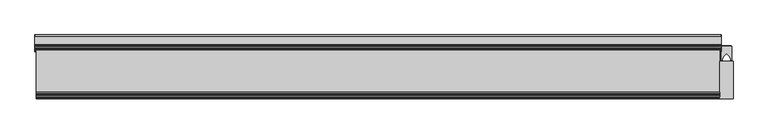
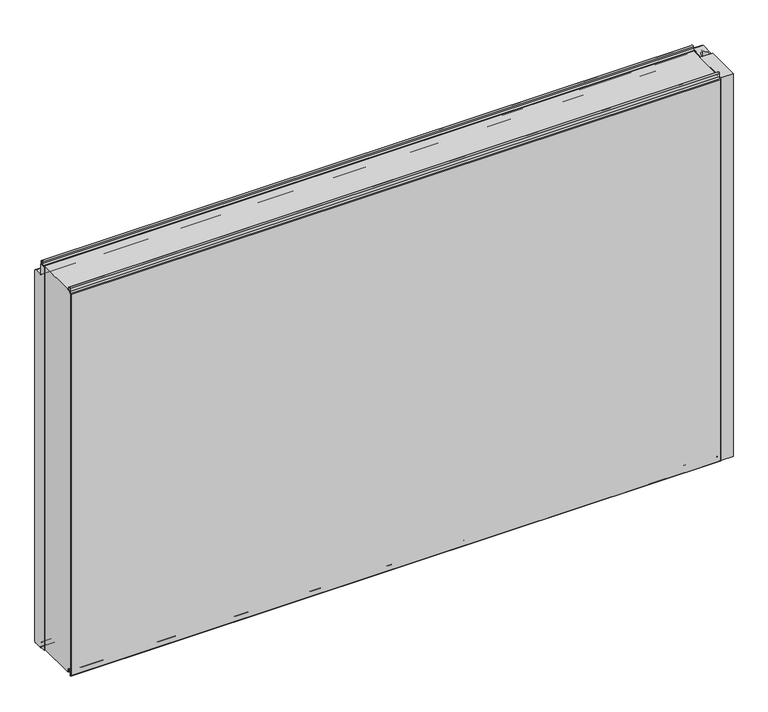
"""IFC4 building model written with IfcOpenShell, lengths in millimetres: plate geometry, Fronttop : Fronttop 150/1000."""

from ifc_helpers import new_model, si_unit, point, frame, frame_2d, origin, origin_with_axes, place, context, project, spatial, polyline, circle_curve, trimmed, segment, composite_curve, outline, extrude, source, transform, mapped, element, save
from ifc_brep_helpers import plane_surface, cylinder_surface, revolved_surface, advanced_brep


def plate_3d081e60(model_context):
    return source(origin(), model_context, "Body", "SolidModel", [
        advanced_brep(
        [(-804.0, 124.0, 1008.0), (-804.0, 121.0, 1008.0), (-804.0, 121.0, 1004.0), (-804.0, 117.0, 1000.0), (-804.0, 115.0, 1000.0), (-804.0, 115.0, 1001.0), (-804.0, 117.0, 1001.0), (-804.0, 120.0, 1004.0), (-804.0, 120.0, 1008.0), (-804.0, 125.0, 1008.0), (-804.0, 125.0, 1000.0), (-804.0, 124.0, 1000.0), (804.0, 125.0, 1008.0), (804.0, 120.0, 1008.0), (804.0, 120.0, 1004.0), (804.0, 117.0, 1001.0), (804.0, 115.0, 1001.0), (804.0, 115.0, 1000.0), (804.0, 117.0, 1000.0), (804.0, 121.0, 1004.0), (804.0, 121.0, 1008.0), (804.0, 124.0, 1008.0), (804.0, 124.0, 1000.0), (804.0, 125.0, 1000.0), (-804.0, 117.0, 2.0), (804.0, 117.0, 2.0), (804.0, 115.0, 2.0), (-804.0, 115.0, 2.0), (-804.0, 119.0, 4.0), (804.0, 119.0, 4.0), (-804.0, 119.0, 8.0), (804.0, 119.0, 8.0), (-804.0, 126.0, 8.0), (804.0, 126.0, 8.0), (-804.0, 126.0, 0.0), (804.0, 126.0, 0.0), (-804.0, 129.0, -3.0), (804.0, 129.0, -3.0), (-804.0, 125.0, -3.0), (-805.0, 125.0, -3.0), (-805.0, 147.0, -3.0), (-804.0, 147.0, -3.0), (804.0, 147.0, -3.0), (805.0, 147.0, -3.0), (805.0, 125.0, -3.0), (804.0, 125.0, -3.0), (-804.0, 150.0, 0.0), (804.0, 150.0, 0.0), (-805.0, 150.0, 0.0), (-805.0, 150.0, 969.0), (-804.0, 150.0, 969.0), (804.0, 150.0, 969.0), (805.0, 150.0, 969.0), (805.0, 150.0, 0.0), (-804.0, 147.0, 972.0), (804.0, 147.0, 972.0), (-805.0, 147.0, 972.0), (-805.0, 128.0, 972.0), (-804.0, 128.0, 972.0), (804.0, 128.0, 972.0), (805.0, 128.0, 972.0), (805.0, 147.0, 972.0), (-804.0, 125.0, 975.0), (804.0, 125.0, 975.0), (-805.0, 125.0, 975.0), (-805.0, 125.0, 1000.0), (805.0, 125.0, 1000.0), (805.0, 125.0, 975.0), (-804.0, 124.0, 975.0), (804.0, 124.0, 975.0), (-804.0, 128.0, 971.0), (804.0, 128.0, 971.0), (-804.0, 147.0, 971.0), (804.0, 147.0, 971.0), (-804.0, 149.0, 969.0), (804.0, 149.0, 969.0), (-804.0, 149.0, 0.0), (804.0, 149.0, 0.0), (-804.0, 147.0, -2.0), (804.0, 147.0, -2.0), (-804.0, 129.0, -2.0), (804.0, 129.0, -2.0), (-804.0, 127.0, 0.0), (804.0, 127.0, 0.0), (-804.0, 127.0, 8.0), (804.0, 127.0, 8.0), (-804.0, 118.0, 8.0), (804.0, 118.0, 8.0), (-804.0, 118.0, 4.0), (804.0, 118.0, 4.0), (-804.0, 117.0, 3.0), (804.0, 117.0, 3.0), (-804.0, 115.0, 3.0), (804.0, 115.0, 3.0), (805.0, 110.0, 1000.0), (805.0, 110.0, 0.0), (805.0, 125.0, 0.0), (804.0, 125.0, 0.0), (804.0, 110.0, 0.0), (804.0, 110.0, 1000.0), (-805.0, 125.0, 0.0), (-805.0, 110.0, 0.0), (-805.0, 110.0, 1000.0), (-804.0, 110.0, 1000.0), (-804.0, 110.0, 0.0), (-804.0, 125.0, 0.0)],
        [
            (0, 1, circle_curve(frame((-804.0, 122.5, 1008.0), z_axis=(1.0, 0.0, 0.0), x_axis=(0.0, -1.0, 0.0)), 1.5)),
            (1, 2),
            (2, 3, circle_curve(frame((-804.0, 117.0, 1004.0), z_axis=(-1.0, 0.0, 0.0), x_axis=(0.0, -1.0, 0.0)), 4.0)),
            (3, 4),
            (4, 5),
            (5, 6),
            (6, 7, circle_curve(frame((-804.0, 117.0, 1004.0), z_axis=(1.0, 0.0, 0.0), x_axis=(0.0, -1.0, 0.0)), 3.0)),
            (7, 8),
            (8, 9, circle_curve(frame((-804.0, 122.5, 1008.0), z_axis=(-1.0, 0.0, 0.0), x_axis=(0.0, -1.0, 0.0)), 2.5)),
            (9, 10),
            (10, 11),
            (11, 0),
            (12, 13, circle_curve(frame((804.0, 122.5, 1008.0), z_axis=(1.0, 0.0, 0.0), x_axis=(0.0, -1.0, 0.0)), 2.5)),
            (13, 14),
            (14, 15, circle_curve(frame((804.0, 117.0, 1004.0), z_axis=(-1.0, 0.0, 0.0), x_axis=(0.0, -1.0, 0.0)), 3.0)),
            (15, 16),
            (16, 17),
            (17, 18),
            (18, 19, circle_curve(frame((804.0, 117.0, 1004.0), z_axis=(1.0, 0.0, 0.0), x_axis=(0.0, -1.0, 0.0)), 4.0)),
            (19, 20),
            (20, 21, circle_curve(frame((804.0, 122.5, 1008.0), z_axis=(-1.0, 0.0, 0.0), x_axis=(0.0, -1.0, 0.0)), 1.5)),
            (21, 22),
            (22, 23),
            (23, 12),
            (24, 25),
            (25, 26),
            (26, 27),
            (27, 24),
            (24, 28, circle_curve(frame((-804.0, 117.0, 4.0), z_axis=(1.0, 0.0, 0.0), x_axis=(0.0, -1.0, 0.0)), 2.0)),
            (28, 29),
            (29, 25, circle_curve(frame((804.0, 117.0, 4.0), z_axis=(-1.0, 0.0, 0.0), x_axis=(0.0, -1.0, 0.0)), 2.0)),
            (28, 30),
            (30, 31),
            (31, 29),
            (30, 32, circle_curve(frame((-804.0, 122.5, 8.0), z_axis=(-1.0, 0.0, 0.0), x_axis=(0.0, -1.0, 0.0)), 3.5)),
            (32, 33),
            (33, 31, circle_curve(frame((804.0, 122.5, 8.0), z_axis=(1.0, 0.0, 0.0), x_axis=(0.0, -1.0, 0.0)), 3.5)),
            (32, 34),
            (34, 35),
            (35, 33),
            (34, 36, circle_curve(frame((-804.0, 129.0, 0.0), z_axis=(1.0, 0.0, 0.0), x_axis=(0.0, -1.0, 0.0)), 3.0)),
            (36, 37),
            (37, 35, circle_curve(frame((804.0, 129.0, 0.0), z_axis=(-1.0, 0.0, 0.0), x_axis=(0.0, -1.0, 0.0)), 3.0)),
            (36, 38),
            (38, 39),
            (39, 40),
            (40, 41),
            (41, 42),
            (42, 43),
            (43, 44),
            (44, 45),
            (45, 37),
            (41, 46, circle_curve(frame((-804.0, 147.0, 0.0), z_axis=(1.0, 0.0, 0.0), x_axis=(0.0, -1.0, 0.0)), 3.0)),
            (46, 47),
            (47, 42, circle_curve(frame((804.0, 147.0, 0.0), z_axis=(-1.0, 0.0, 0.0), x_axis=(0.0, -1.0, 0.0)), 3.0)),
            (46, 48),
            (48, 49),
            (49, 50),
            (50, 51),
            (51, 52),
            (52, 53),
            (53, 47),
            (50, 54, circle_curve(frame((-804.0, 147.0, 969.0), z_axis=(1.0, 0.0, 0.0), x_axis=(0.0, -1.0, 0.0)), 3.0)),
            (54, 55),
            (55, 51, circle_curve(frame((804.0, 147.0, 969.0), z_axis=(-1.0, 0.0, 0.0), x_axis=(0.0, -1.0, 0.0)), 3.0)),
            (54, 56),
            (56, 57),
            (57, 58),
            (58, 59),
            (59, 60),
            (60, 61),
            (61, 55),
            (58, 62, circle_curve(frame((-804.0, 128.0, 975.0), z_axis=(-1.0, 0.0, 0.0), x_axis=(0.0, -1.0, 0.0)), 3.0)),
            (62, 63),
            (63, 59, circle_curve(frame((804.0, 128.0, 975.0), z_axis=(1.0, 0.0, 0.0), x_axis=(0.0, -1.0, 0.0)), 3.0)),
            (62, 64),
            (64, 65),
            (65, 10),
            (9, 12),
            (23, 66),
            (66, 67),
            (67, 63),
            (8, 13),
            (7, 14),
            (6, 15),
            (5, 16),
            (4, 17),
            (4, 3),
            (3, 18),
            (18, 17),
            (2, 19),
            (1, 20),
            (0, 21),
            (11, 68),
            (68, 69),
            (69, 22),
            (68, 70, circle_curve(frame((-804.0, 128.0, 975.0), z_axis=(1.0, 0.0, 0.0), x_axis=(0.0, -1.0, 0.0)), 4.0)),
            (70, 71),
            (71, 69, circle_curve(frame((804.0, 128.0, 975.0), z_axis=(-1.0, 0.0, 0.0), x_axis=(0.0, -1.0, 0.0)), 4.0)),
            (70, 72),
            (72, 73),
            (73, 71),
            (72, 74, circle_curve(frame((-804.0, 147.0, 969.0), z_axis=(-1.0, 0.0, 0.0), x_axis=(0.0, -1.0, 0.0)), 2.0)),
            (74, 75),
            (75, 73, circle_curve(frame((804.0, 147.0, 969.0), z_axis=(1.0, 0.0, 0.0), x_axis=(0.0, -1.0, 0.0)), 2.0)),
            (74, 76),
            (76, 77),
            (77, 75),
            (76, 78, circle_curve(frame((-804.0, 147.0, 0.0), z_axis=(-1.0, 0.0, 0.0), x_axis=(0.0, -1.0, 0.0)), 2.0)),
            (78, 79),
            (79, 77, circle_curve(frame((804.0, 147.0, 0.0), z_axis=(1.0, 0.0, 0.0), x_axis=(0.0, -1.0, 0.0)), 2.0)),
            (78, 80),
            (80, 81),
            (81, 79),
            (80, 82, circle_curve(frame((-804.0, 129.0, 0.0), z_axis=(-1.0, 0.0, 0.0), x_axis=(0.0, -1.0, 0.0)), 2.0)),
            (82, 83),
            (83, 81, circle_curve(frame((804.0, 129.0, 0.0), z_axis=(1.0, 0.0, 0.0), x_axis=(0.0, -1.0, 0.0)), 2.0)),
            (82, 84),
            (84, 85),
            (85, 83),
            (84, 86, circle_curve(frame((-804.0, 122.5, 8.0), z_axis=(1.0, 0.0, 0.0), x_axis=(0.0, -1.0, 0.0)), 4.5)),
            (86, 87),
            (87, 85, circle_curve(frame((804.0, 122.5, 8.0), z_axis=(-1.0, 0.0, 0.0), x_axis=(0.0, -1.0, 0.0)), 4.5)),
            (86, 88),
            (88, 89),
            (89, 87),
            (88, 90, circle_curve(frame((-804.0, 117.0, 4.0), z_axis=(-1.0, 0.0, 0.0), x_axis=(0.0, -1.0, 0.0)), 1.0)),
            (90, 91),
            (91, 89, circle_curve(frame((804.0, 117.0, 4.0), z_axis=(1.0, 0.0, 0.0), x_axis=(0.0, -1.0, 0.0)), 1.0)),
            (90, 92),
            (92, 93),
            (93, 91),
            (26, 93),
            (92, 27),
            (66, 94),
            (94, 95),
            (95, 96),
            (96, 44),
            (43, 53, circle_curve(frame((805.0, 147.0, 0.0), z_axis=(1.0, 0.0, 0.0), x_axis=(0.0, 1.0, 0.0)), 3.0)),
            (52, 61, circle_curve(frame((805.0, 147.0, 969.0), z_axis=(1.0, 0.0, 0.0), x_axis=(0.0, 1.0, 0.0)), 3.0)),
            (60, 67, circle_curve(frame((805.0, 128.0, 975.0), z_axis=(-1.0, 0.0, 0.0), x_axis=(0.0, 1.0, 0.0)), 3.0)),
            (45, 97),
            (97, 98),
            (98, 99),
            (99, 17),
            (18, 22),
            (99, 94),
            (98, 95),
            (97, 96),
            (64, 57, circle_curve(frame((-805.0, 128.0, 975.0), z_axis=(1.0, 0.0, 0.0), x_axis=(0.0, 1.0, 0.0)), 3.0)),
            (56, 49, circle_curve(frame((-805.0, 147.0, 969.0), z_axis=(-1.0, 0.0, 0.0), x_axis=(0.0, 1.0, 0.0)), 3.0)),
            (48, 40, circle_curve(frame((-805.0, 147.0, 0.0), z_axis=(-1.0, 0.0, 0.0), x_axis=(0.0, 1.0, 0.0)), 3.0)),
            (39, 100),
            (100, 101),
            (101, 102),
            (102, 65),
            (103, 104),
            (104, 105),
            (105, 38),
            (11, 3),
            (4, 103),
            (102, 103),
            (101, 104),
            (100, 105),
        ],
        [
            plane_surface(frame((-804.0, 0.0, 0.0), z_axis=(-1.0, 0.0, 0.0), x_axis=(0.0, 0.0, 1.0))),
            plane_surface(frame((804.0, 0.0, 0.0), z_axis=(1.0, 0.0, 0.0), x_axis=(0.0, 0.0, 1.0))),
            plane_surface(frame((-804.0, 117.0, 2.0), z_axis=(0.0, 0.0, -1.0), x_axis=(1.0, 0.0, 0.0))),
            cylinder_surface(frame((-804.0, 117.0, 4.0), z_axis=(-1.0, 0.0, 0.0), x_axis=(0.0, -1.0, 0.0)), 2.0),
            plane_surface(frame((-804.0, 119.0, 8.0), z_axis=(0.0, 1.0, 0.0), x_axis=(1.0, 0.0, 0.0))),
            revolved_surface(polyline([(804.0, 119.0, 8.0), (-804.0, 119.0, 8.0)]), (-804.0, 122.5, 8.0), (1.0, 0.0, 0.0)),
            plane_surface(frame((-804.0, 126.0, 0.0), z_axis=(0.0, -1.0, 0.0), x_axis=(1.0, 0.0, 0.0))),
            cylinder_surface(frame((-804.0, 129.0, 0.0), z_axis=(-1.0, 0.0, 0.0), x_axis=(0.0, -1.0, 0.0)), 3.0),
            plane_surface(frame((-804.0, 147.0, -3.0), z_axis=(0.0, 0.0, -1.0), x_axis=(1.0, 0.0, 0.0))),
            cylinder_surface(frame((-804.0, 147.0, 0.0), z_axis=(-1.0, 0.0, 0.0), x_axis=(0.0, -1.0, 0.0)), 3.0),
            plane_surface(frame((-804.0, 150.0, 969.0), z_axis=(0.0, 1.0, 0.0), x_axis=(1.0, 0.0, 0.0))),
            cylinder_surface(frame((-804.0, 147.0, 969.0), z_axis=(-1.0, 0.0, 0.0), x_axis=(0.0, -1.0, 0.0)), 3.0),
            plane_surface(frame((-804.0, 128.0, 972.0), z_axis=(0.0, 0.0, 1.0), x_axis=(1.0, 0.0, 0.0))),
            revolved_surface(polyline([(804.0, 125.0, 975.0), (-804.0, 125.0, 975.0)]), (-804.0, 128.0, 975.0), (1.0, 0.0, 0.0)),
            plane_surface(frame((-804.0, 125.0, 1008.0), z_axis=(0.0, 1.0, 0.0), x_axis=(1.0, 0.0, 0.0))),
            cylinder_surface(frame((-804.0, 122.5, 1008.0), z_axis=(-1.0, 0.0, 0.0), x_axis=(0.0, -1.0, 0.0)), 2.5),
            plane_surface(frame((-804.0, 120.0, 1004.0), z_axis=(0.0, -1.0, 0.0), x_axis=(1.0, 0.0, 0.0))),
            revolved_surface(polyline([(804.0, 114.0, 1004.0), (-804.0, 114.0, 1004.0)]), (-804.0, 117.0, 1004.0), (1.0, 0.0, 0.0)),
            plane_surface(frame((-804.0, 115.0, 1001.0), z_axis=(0.0, 0.0, 1.0), x_axis=(1.0, 0.0, 0.0))),
            plane_surface(frame((-804.0, 115.0, 1000.0), z_axis=(0.0, -1.0, 0.0), x_axis=(1.0, 0.0, 0.0))),
            plane_surface(frame((-804.0, 117.0, 1000.0), z_axis=(0.0, 0.0, -1.0), x_axis=(1.0, 0.0, 0.0))),
            cylinder_surface(frame((-804.0, 117.0, 1004.0), z_axis=(-1.0, 0.0, 0.0), x_axis=(0.0, -1.0, 0.0)), 4.0),
            plane_surface(frame((-804.0, 121.0, 1008.0), z_axis=(0.0, 1.0, 0.0), x_axis=(1.0, 0.0, 0.0))),
            revolved_surface(polyline([(804.0, 121.0, 1008.0), (-804.0, 121.0, 1008.0)]), (-804.0, 122.5, 1008.0), (1.0, 0.0, 0.0)),
            plane_surface(frame((-804.0, 124.0, 975.0), z_axis=(0.0, -1.0, 0.0), x_axis=(1.0, 0.0, 0.0))),
            cylinder_surface(frame((-804.0, 128.0, 975.0), z_axis=(-1.0, 0.0, 0.0), x_axis=(0.0, -1.0, 0.0)), 4.0),
            plane_surface(frame((-804.0, 147.0, 971.0), z_axis=(0.0, 0.0, -1.0), x_axis=(1.0, 0.0, 0.0))),
            revolved_surface(polyline([(804.0, 145.0, 969.0), (-804.0, 145.0, 969.0)]), (-804.0, 147.0, 969.0), (1.0, 0.0, 0.0)),
            plane_surface(frame((-804.0, 149.0, 0.0), z_axis=(0.0, -1.0, 0.0), x_axis=(1.0, 0.0, 0.0))),
            revolved_surface(polyline([(804.0, 145.0, 0.0), (-804.0, 145.0, 0.0)]), (-804.0, 147.0, 0.0), (1.0, 0.0, 0.0)),
            plane_surface(frame((-804.0, 129.0, -2.0), z_axis=(0.0, 0.0, 1.0), x_axis=(1.0, 0.0, 0.0))),
            revolved_surface(polyline([(804.0, 127.0, 0.0), (-804.0, 127.0, 0.0)]), (-804.0, 129.0, 0.0), (1.0, 0.0, 0.0)),
            plane_surface(frame((-804.0, 127.0, 8.0), z_axis=(0.0, 1.0, 0.0), x_axis=(1.0, 0.0, 0.0))),
            cylinder_surface(frame((-804.0, 122.5, 8.0), z_axis=(-1.0, 0.0, 0.0), x_axis=(0.0, -1.0, 0.0)), 4.5),
            plane_surface(frame((-804.0, 118.0, 4.0), z_axis=(0.0, -1.0, 0.0), x_axis=(1.0, 0.0, 0.0))),
            revolved_surface(polyline([(804.0, 116.0, 4.0), (-804.0, 116.0, 4.0)]), (-804.0, 117.0, 4.0), (1.0, 0.0, 0.0)),
            plane_surface(frame((-804.0, 115.0, 3.0), z_axis=(0.0, 0.0, 1.0), x_axis=(1.0, 0.0, 0.0))),
            plane_surface(frame((-804.0, 115.0, 2.0), z_axis=(0.0, -1.0, 0.0), x_axis=(1.0, 0.0, 0.0))),
            plane_surface(frame((805.0, 125.0, 1000.0), z_axis=(1.0, 0.0, 0.0), x_axis=(0.0, -1.0, 0.0))),
            plane_surface(frame((804.0, 125.0, 1000.0), z_axis=(-1.0, 0.0, 0.0), x_axis=(0.0, 1.0, 0.0))),
            plane_surface(frame((805.0, 125.0, 1000.0), z_axis=(0.0, 0.0, 1.0), x_axis=(-1.0, 0.0, 0.0))),
            plane_surface(frame((805.0, 110.0, 1000.0), z_axis=(0.0, -1.0, 0.0), x_axis=(-1.0, 0.0, 0.0))),
            plane_surface(frame((805.0, 110.0, 0.0), z_axis=(0.0, 0.0, -1.0), x_axis=(-1.0, 0.0, 0.0))),
            cylinder_surface(frame((804.0, 147.0, 0.0), z_axis=(1.0, 0.0, 0.0), x_axis=(0.0, 1.0, 0.0)), 3.0),
            cylinder_surface(frame((804.0, 147.0, 969.0), z_axis=(1.0, 0.0, 0.0), x_axis=(0.0, 1.0, 0.0)), 3.0),
            revolved_surface(polyline([(804.0, 131.0, 975.0), (805.0, 131.0, 975.0)]), (804.0, 128.0, 975.0), (-1.0, 0.0, 0.0)),
            plane_surface(frame((-805.0, 125.0, 1000.0), z_axis=(-1.0, 0.0, 0.0), x_axis=(0.0, 1.0, 0.0))),
            plane_surface(frame((-804.0, 125.0, 1000.0), z_axis=(1.0, 0.0, 0.0), x_axis=(0.0, -1.0, 0.0))),
            plane_surface(frame((-804.0, 125.0, 1000.0), z_axis=(0.0, 0.0, 1.0), x_axis=(-1.0, 0.0, 0.0))),
            plane_surface(frame((-804.0, 110.0, 1000.0), z_axis=(0.0, -1.0, 0.0), x_axis=(-1.0, 0.0, 0.0))),
            plane_surface(frame((-804.0, 110.0, 0.0), z_axis=(0.0, 0.0, -1.0), x_axis=(-1.0, 0.0, 0.0))),
            cylinder_surface(frame((-805.0, 147.0, 0.0), z_axis=(1.0, 0.0, 0.0), x_axis=(0.0, 1.0, 0.0)), 3.0),
            cylinder_surface(frame((-805.0, 147.0, 969.0), z_axis=(1.0, 0.0, 0.0), x_axis=(0.0, 1.0, 0.0)), 3.0),
            revolved_surface(polyline([(-805.0, 131.0, 975.0), (-804.0, 131.0, 975.0)]), (-805.0, 128.0, 975.0), (-1.0, 0.0, 0.0)),
            plane_surface(frame((805.0, 125.0, 0.0), z_axis=(0.0, -1.0, 0.0), x_axis=(-1.0, 0.0, 0.0))),
            plane_surface(frame((-804.0, 125.0, 0.0), z_axis=(0.0, -1.0, 0.0), x_axis=(-1.0, 0.0, 0.0))),
        ],
        [
            (0, [[1, 2, 3, 4, 5, 6, 7, 8, 9, 10, 11, 12]]),
            (1, [[13, 14, 15, 16, 17, 18, 19, 20, 21, 22, 23, 24]]),
            (2, [[25, 26, 27, 28]]),
            (3, [[-25, 29, 30, 31]]),
            (4, [[-30, 32, 33, 34]]),
            (5, [[-33, 35, 36, 37]]),
            (6, [[-36, 38, 39, 40]]),
            (7, [[-39, 41, 42, 43]]),
            (8, [[-42, 44, 45, 46, 47, 48, 49, 50, 51, 52]]),
            (9, [[-48, 53, 54, 55]]),
            (10, [[-54, 56, 57, 58, 59, 60, 61, 62]]),
            (11, [[-59, 63, 64, 65]]),
            (12, [[-64, 66, 67, 68, 69, 70, 71, 72]]),
            (13, [[-69, 73, 74, 75]]),
            (14, [[-74, 76, 77, 78, -10, 79, -24, 80, 81, 82]]),
            (15, [[-9, 83, -13, -79]]),
            (16, [[-8, 84, -14, -83]]),
            (17, [[-7, 85, -15, -84]]),
            (18, [[-6, 86, -16, -85]]),
            (19, [[-5, 87, -17, -86]]),
            (20, [[-87, 88, 89, 90]]),
            (21, [[-3, 91, -19, -89]]),
            (22, [[-2, 92, -20, -91]]),
            (23, [[-1, 93, -21, -92]]),
            (24, [[-93, -12, 94, 95, 96, -22]]),
            (25, [[-95, 97, 98, 99]]),
            (26, [[-98, 100, 101, 102]]),
            (27, [[-101, 103, 104, 105]]),
            (28, [[-104, 106, 107, 108]]),
            (29, [[-107, 109, 110, 111]]),
            (30, [[-110, 112, 113, 114]]),
            (31, [[-113, 115, 116, 117]]),
            (32, [[-116, 118, 119, 120]]),
            (33, [[-119, 121, 122, 123]]),
            (34, [[-122, 124, 125, 126]]),
            (35, [[-125, 127, 128, 129]]),
            (36, [[-128, 130, 131, 132]]),
            (37, [[-27, 133, -131, 134]]),
            (38, [[135, 136, 137, 138, -50, 139, -61, 140, -71, 141, -81]]),
            (39, [[142, 143, 144, 145, -90, 146, -96, -99, -102, -105, -108, -111, -114, -117, -120, -123, -126, -129, -132, -133, -26, -31, -34, -37, -40, -43, -52]]),
            (40, [[-135, -80, -23, -146, -18, -145, 147]]),
            (41, [[-136, -147, -144, 148]]),
            (42, [[-137, -148, -143, 149]]),
            (43, [[-139, -49, -55, -62]]),
            (44, [[-140, -60, -65, -72]]),
            (45, [[-141, -70, -75, -82]]),
            (46, [[-77, 150, -67, 151, -57, 152, -46, 153, 154, 155, 156]]),
            (47, [[157, 158, 159, -44, -41, -38, -35, -32, -29, -28, -134, -130, -127, -124, -121, -118, -115, -112, -109, -106, -103, -100, -97, -94, 160, -88, 161]]),
            (48, [[-156, 162, -161, -4, -160, -11, -78]]),
            (49, [[-155, 163, -157, -162]]),
            (50, [[-154, 164, -158, -163]]),
            (51, [[-152, -56, -53, -47]]),
            (52, [[-151, -66, -63, -58]]),
            (53, [[-150, -76, -73, -68]]),
            (54, [[-138, -149, -142, -51]]),
            (55, [[-153, -45, -159, -164]]),
        ],
    ),
        extrude(outline(composite_curve([segment(polyline([(804.9998455, 123.5), (816.75, 123.5), (816.75, 107.5), (818.25, 107.5), (818.25, 123.5), (830.0001545, 123.5), (830.0001545, 90.0), (827.25, 90.0), (827.25, 92.5)]), True, "CONTINUOUS"), segment(trimmed(circle_curve(frame_2d((809.4661979, 89.3183984)), 18.0661619), [point((827.25, 92.5))], [point((817.5, 105.5))], True, "CARTESIAN"), True, "CONTINUOUS"), segment(trimmed(circle_curve(frame_2d((825.5338021, 89.3183984)), 18.0661619), [point((817.5, 105.5))], [point((807.75, 92.5))], True, "CARTESIAN"), True, "CONTINUOUS"), segment(polyline([(807.75, 92.5), (807.75, 90.0), (804.9998455, 90.0), (804.9998455, 123.5)]), True, "CONTINUOUS")], self_intersect=False)), origin_with_axes(), (0.0, 0.0, 1.0), 1000.0),
        extrude(outline(polyline([(833.0, 0.0), (802.0, 0.0), (802.0, 88.0), (833.0, 88.0), (833.0, 0.0)])), origin_with_axes(), (0.0, 0.0, 1.0), 1000.0),
        extrude(outline(polyline([(805.9948846, 125.0), (829.0051154, 125.0), (829.0051154, 123.5), (818.1502496, 123.5), (818.1502496, 109.0759655), (816.85, 109.0759655), (816.85, 123.5), (805.9948846, 123.5), (805.9948846, 125.0)])), origin_with_axes(), (0.0, 0.0, 1.0), 1000.0),
        advanced_brep(
        [(-802.0, 13.0, 1001.0), (-802.0, 15.0, 1001.0), (-802.0, 15.0, 1000.0), (-802.0, 13.0, 1000.0), (-802.0, 9.0, 1004.0), (-802.0, 9.0, 1008.0), (-802.0, 6.0, 1008.0), (-802.0, 6.0, 999.5), (-802.0, 2.1134897, 996.0214069), (-802.0, 1.0, 995.0), (-802.0, 1.0, -0.5), (-802.0, 3.0, -0.5), (-802.0, 3.0, 8.0), (-802.0, 12.0, 8.0), (-802.0, 12.0, 4.0), (-802.0, 13.0, 3.0), (-802.0, 15.0, 3.0), (-802.0, 15.0, 2.0), (-802.0, 13.0, 2.0), (-802.0, 11.0, 4.0), (-802.0, 11.0, 8.0), (-802.0, 4.0, 8.0), (-802.0, 4.0, -0.5), (-802.0, 0.0, -0.5), (-802.0, 0.0, 995.0), (-802.0, 2.220863, 996.9877675), (-802.0, 5.0, 999.5), (-802.0, 5.0, 1008.0), (-802.0, 10.0, 1008.0), (-802.0, 10.0, 1004.0), (802.0, 13.0, 1001.0), (802.0, 10.0, 1004.0), (802.0, 10.0, 1008.0), (802.0, 5.0, 1008.0), (802.0, 5.0, 999.5), (802.0, 2.2239212, 997.0152907), (802.0, 0.0, 995.0), (802.0, 0.0, -0.5), (802.0, 4.0, -0.5), (802.0, 4.0, 8.0), (802.0, 11.0, 8.0), (802.0, 11.0, 4.0), (802.0, 13.0, 2.0), (802.0, 15.0, 2.0), (802.0, 15.0, 3.0), (802.0, 13.0, 3.0), (802.0, 12.0, 4.0), (802.0, 12.0, 8.0), (802.0, 3.0, 8.0), (802.0, 3.0, -0.5), (802.0, 1.0, -0.5), (802.0, 1.0, 995.0), (802.0, 2.1104315, 995.9938837), (802.0, 6.0, 999.5), (802.0, 6.0, 1008.0), (802.0, 9.0, 1008.0), (802.0, 9.0, 1004.0), (802.0, 13.0, 1000.0), (802.0, 15.0, 1000.0), (802.0, 15.0, 1001.0)],
        [
            (0, 1),
            (1, 2),
            (2, 3),
            (3, 4, circle_curve(frame((-802.0, 13.0, 1004.0), z_axis=(-1.0, 0.0, 0.0), x_axis=(0.0, -1.0, 0.0)), 4.0)),
            (4, 5),
            (5, 6, circle_curve(frame((-802.0, 7.5, 1008.0), z_axis=(1.0, 0.0, 0.0), x_axis=(0.0, -1.0, 0.0)), 1.5)),
            (6, 7),
            (7, 8, circle_curve(frame((-802.0, 2.5, 999.5), z_axis=(-1.0, 0.0, 0.0), x_axis=(0.0, -1.0, 0.0)), 3.5)),
            (8, 9, circle_curve(frame((-802.0, 2.0, 995.0), z_axis=(1.0, 0.0, 0.0), x_axis=(0.0, -1.0, 0.0)), 1.0)),
            (9, 10),
            (10, 11, circle_curve(frame((-802.0, 2.0, -0.5), z_axis=(1.0, 0.0, 0.0), x_axis=(0.0, -1.0, 0.0)), 1.0)),
            (11, 12),
            (12, 13, circle_curve(frame((-802.0, 7.5, 8.0), z_axis=(-1.0, 0.0, 0.0), x_axis=(0.0, -1.0, 0.0)), 4.5)),
            (13, 14),
            (14, 15, circle_curve(frame((-802.0, 13.0, 4.0), z_axis=(1.0, 0.0, 0.0), x_axis=(0.0, -1.0, 0.0)), 1.0)),
            (15, 16),
            (16, 17),
            (17, 18),
            (18, 19, circle_curve(frame((-802.0, 13.0, 4.0), z_axis=(-1.0, 0.0, 0.0), x_axis=(0.0, -1.0, 0.0)), 2.0)),
            (19, 20),
            (20, 21, circle_curve(frame((-802.0, 7.5, 8.0), z_axis=(1.0, 0.0, 0.0), x_axis=(0.0, -1.0, 0.0)), 3.5)),
            (21, 22),
            (22, 23, circle_curve(frame((-802.0, 2.0, -0.5), z_axis=(-1.0, 0.0, 0.0), x_axis=(0.0, -1.0, 0.0)), 2.0)),
            (23, 24),
            (24, 25, circle_curve(frame((-802.0, 2.0, 995.0), z_axis=(-1.0, 0.0, 0.0), x_axis=(0.0, -1.0, 0.0)), 2.0)),
            (25, 26, circle_curve(frame((-802.0, 2.5, 999.5), z_axis=(1.0, 0.0, 0.0), x_axis=(0.0, -1.0, 0.0)), 2.5)),
            (26, 27),
            (27, 28, circle_curve(frame((-802.0, 7.5, 1008.0), z_axis=(-1.0, 0.0, 0.0), x_axis=(0.0, -1.0, 0.0)), 2.5)),
            (28, 29),
            (29, 0, circle_curve(frame((-802.0, 13.0, 1004.0), z_axis=(1.0, 0.0, 0.0), x_axis=(0.0, -1.0, 0.0)), 3.0)),
            (30, 31, circle_curve(frame((802.0, 13.0, 1004.0), z_axis=(-1.0, 0.0, 0.0), x_axis=(0.0, -1.0, 0.0)), 3.0)),
            (31, 32),
            (32, 33, circle_curve(frame((802.0, 7.5, 1008.0), z_axis=(1.0, 0.0, 0.0), x_axis=(0.0, -1.0, 0.0)), 2.5)),
            (33, 34),
            (34, 35, circle_curve(frame((802.0, 2.5, 999.5), z_axis=(-1.0, 0.0, 0.0), x_axis=(0.0, -1.0, 0.0)), 2.5)),
            (35, 36, circle_curve(frame((802.0, 2.0, 995.0), z_axis=(1.0, 0.0, 0.0), x_axis=(0.0, -1.0, 0.0)), 2.0)),
            (36, 37),
            (37, 38, circle_curve(frame((802.0, 2.0, -0.5), z_axis=(1.0, 0.0, 0.0), x_axis=(0.0, -1.0, 0.0)), 2.0)),
            (38, 39),
            (39, 40, circle_curve(frame((802.0, 7.5, 8.0), z_axis=(-1.0, 0.0, 0.0), x_axis=(0.0, -1.0, 0.0)), 3.5)),
            (40, 41),
            (41, 42, circle_curve(frame((802.0, 13.0, 4.0), z_axis=(1.0, 0.0, 0.0), x_axis=(0.0, -1.0, 0.0)), 2.0)),
            (42, 43),
            (43, 44),
            (44, 45),
            (45, 46, circle_curve(frame((802.0, 13.0, 4.0), z_axis=(-1.0, 0.0, 0.0), x_axis=(0.0, -1.0, 0.0)), 1.0)),
            (46, 47),
            (47, 48, circle_curve(frame((802.0, 7.5, 8.0), z_axis=(1.0, 0.0, 0.0), x_axis=(0.0, -1.0, 0.0)), 4.5)),
            (48, 49),
            (49, 50, circle_curve(frame((802.0, 2.0, -0.5), z_axis=(-1.0, 0.0, 0.0), x_axis=(0.0, -1.0, 0.0)), 1.0)),
            (50, 51),
            (51, 52, circle_curve(frame((802.0, 2.0, 995.0), z_axis=(-1.0, 0.0, 0.0), x_axis=(0.0, -1.0, 0.0)), 1.0)),
            (52, 53, circle_curve(frame((802.0, 2.5, 999.5), z_axis=(1.0, 0.0, 0.0), x_axis=(0.0, -1.0, 0.0)), 3.5)),
            (53, 54),
            (54, 55, circle_curve(frame((802.0, 7.5, 1008.0), z_axis=(-1.0, 0.0, 0.0), x_axis=(0.0, -1.0, 0.0)), 1.5)),
            (55, 56),
            (56, 57, circle_curve(frame((802.0, 13.0, 1004.0), z_axis=(1.0, 0.0, 0.0), x_axis=(0.0, -1.0, 0.0)), 4.0)),
            (57, 58),
            (58, 59),
            (59, 30),
            (0, 30),
            (59, 1),
            (58, 2),
            (57, 3),
            (56, 4),
            (55, 5),
            (54, 6),
            (53, 7),
            (52, 8),
            (51, 9),
            (50, 10),
            (49, 11),
            (48, 12),
            (47, 13),
            (46, 14),
            (45, 15),
            (44, 16),
            (43, 17),
            (42, 18),
            (41, 19),
            (40, 20),
            (39, 21),
            (38, 22),
            (37, 23),
            (36, 24),
            (35, 25),
            (34, 26),
            (33, 27),
            (32, 28),
            (31, 29),
        ],
        [
            plane_surface(frame((-802.0, 0.0, 0.0), z_axis=(-1.0, 0.0, 0.0), x_axis=(0.0, 0.0, 1.0))),
            plane_surface(frame((802.0, 0.0, 0.0), z_axis=(1.0, 0.0, 0.0), x_axis=(0.0, 0.0, 1.0))),
            plane_surface(frame((-802.0, 13.0, 1001.0), z_axis=(0.0, 0.0, 1.0), x_axis=(1.0, 0.0, 0.0))),
            plane_surface(frame((-802.0, 15.0, 1001.0), z_axis=(0.0, 1.0, 0.0), x_axis=(1.0, 0.0, 0.0))),
            plane_surface(frame((-802.0, 15.0, 1000.0), z_axis=(0.0, 0.0, -1.0), x_axis=(1.0, 0.0, 0.0))),
            cylinder_surface(frame((-802.0, 13.0, 1004.0), z_axis=(-1.0, 0.0, 0.0), x_axis=(0.0, -1.0, 0.0)), 4.0),
            plane_surface(frame((-802.0, 9.0, 1004.0), z_axis=(0.0, -1.0, 0.0), x_axis=(1.0, 0.0, 0.0))),
            revolved_surface(polyline([(802.0, 6.0, 1008.0), (-802.0, 6.0, 1008.0)]), (-802.0, 7.5, 1008.0), (1.0, 0.0, 0.0)),
            plane_surface(frame((-802.0, 6.0, 1008.0), z_axis=(0.0, 1.0, 0.0), x_axis=(1.0, 0.0, 0.0))),
            cylinder_surface(frame((-802.0, 2.5, 999.5), z_axis=(-1.0, 0.0, 0.0), x_axis=(0.0, -1.0, 0.0)), 3.5),
            revolved_surface(polyline([(802.0, 1.0, 995.0), (-802.0, 1.0, 995.0)]), (-802.0, 2.0, 995.0), (1.0, 0.0, 0.0)),
            plane_surface(frame((-802.0, 1.0, 995.0), z_axis=(0.0, 1.0, 0.0), x_axis=(1.0, 0.0, 0.0))),
            revolved_surface(polyline([(802.0, 1.0, -0.5), (-802.0, 1.0, -0.5)]), (-802.0, 2.0, -0.5), (1.0, 0.0, 0.0)),
            plane_surface(frame((-802.0, 3.0, -0.5), z_axis=(0.0, -1.0, 0.0), x_axis=(1.0, 0.0, 0.0))),
            cylinder_surface(frame((-802.0, 7.5, 8.0), z_axis=(-1.0, 0.0, 0.0), x_axis=(0.0, -1.0, 0.0)), 4.5),
            plane_surface(frame((-802.0, 12.0, 8.0), z_axis=(0.0, 1.0, 0.0), x_axis=(1.0, 0.0, 0.0))),
            revolved_surface(polyline([(802.0, 12.0, 4.0), (-802.0, 12.0, 4.0)]), (-802.0, 13.0, 4.0), (1.0, 0.0, 0.0)),
            plane_surface(frame((-802.0, 13.0, 3.0), z_axis=(0.0, 0.0, 1.0), x_axis=(1.0, 0.0, 0.0))),
            plane_surface(frame((-802.0, 15.0, 3.0), z_axis=(0.0, 1.0, 0.0), x_axis=(1.0, 0.0, 0.0))),
            plane_surface(frame((-802.0, 15.0, 2.0), z_axis=(0.0, 0.0, -1.0), x_axis=(1.0, 0.0, 0.0))),
            cylinder_surface(frame((-802.0, 13.0, 4.0), z_axis=(-1.0, 0.0, 0.0), x_axis=(0.0, -1.0, 0.0)), 2.0),
            plane_surface(frame((-802.0, 11.0, 4.0), z_axis=(0.0, -1.0, 0.0), x_axis=(1.0, 0.0, 0.0))),
            revolved_surface(polyline([(802.0, 4.0, 8.0), (-802.0, 4.0, 8.0)]), (-802.0, 7.5, 8.0), (1.0, 0.0, 0.0)),
            plane_surface(frame((-802.0, 4.0, 8.0), z_axis=(0.0, 1.0, 0.0), x_axis=(1.0, 0.0, 0.0))),
            cylinder_surface(frame((-802.0, 2.0, -0.5), z_axis=(-1.0, 0.0, 0.0), x_axis=(0.0, -1.0, 0.0)), 2.0),
            plane_surface(frame((-802.0, 0.0, -0.5), z_axis=(0.0, -1.0, 0.0), x_axis=(1.0, 0.0, 0.0))),
            cylinder_surface(frame((-802.0, 2.0, 995.0), z_axis=(-1.0, 0.0, 0.0), x_axis=(0.0, -1.0, 0.0)), 2.0),
            revolved_surface(polyline([(802.0, 0.0, 999.5), (-802.0, 0.0, 999.5)]), (-802.0, 2.5, 999.5), (1.0, 0.0, 0.0)),
            plane_surface(frame((-802.0, 5.0, 999.5), z_axis=(0.0, -1.0, 0.0), x_axis=(1.0, 0.0, 0.0))),
            cylinder_surface(frame((-802.0, 7.5, 1008.0), z_axis=(-1.0, 0.0, 0.0), x_axis=(0.0, -1.0, 0.0)), 2.5),
            plane_surface(frame((-802.0, 10.0, 1008.0), z_axis=(0.0, 1.0, 0.0), x_axis=(1.0, 0.0, 0.0))),
            revolved_surface(polyline([(802.0, 10.0, 1004.0), (-802.0, 10.0, 1004.0)]), (-802.0, 13.0, 1004.0), (1.0, 0.0, 0.0)),
        ],
        [
            (0, [[1, 2, 3, 4, 5, 6, 7, 8, 9, 10, 11, 12, 13, 14, 15, 16, 17, 18, 19, 20, 21, 22, 23, 24, 25, 26, 27, 28, 29, 30]]),
            (1, [[31, 32, 33, 34, 35, 36, 37, 38, 39, 40, 41, 42, 43, 44, 45, 46, 47, 48, 49, 50, 51, 52, 53, 54, 55, 56, 57, 58, 59, 60]]),
            (2, [[-1, 61, -60, 62]]),
            (3, [[-2, -62, -59, 63]]),
            (4, [[-3, -63, -58, 64]]),
            (5, [[-4, -64, -57, 65]]),
            (6, [[-5, -65, -56, 66]]),
            (7, [[-6, -66, -55, 67]]),
            (8, [[-7, -67, -54, 68]]),
            (9, [[-8, -68, -53, 69]]),
            (10, [[-9, -69, -52, 70]]),
            (11, [[-10, -70, -51, 71]]),
            (12, [[-11, -71, -50, 72]]),
            (13, [[-12, -72, -49, 73]]),
            (14, [[-13, -73, -48, 74]]),
            (15, [[-14, -74, -47, 75]]),
            (16, [[-15, -75, -46, 76]]),
            (17, [[-16, -76, -45, 77]]),
            (18, [[-17, -77, -44, 78]]),
            (19, [[-18, -78, -43, 79]]),
            (20, [[-19, -79, -42, 80]]),
            (21, [[-20, -80, -41, 81]]),
            (22, [[-21, -81, -40, 82]]),
            (23, [[-22, -82, -39, 83]]),
            (24, [[-23, -83, -38, 84]]),
            (25, [[-24, -84, -37, 85]]),
            (26, [[-25, -85, -36, 86]]),
            (27, [[-26, -86, -35, 87]]),
            (28, [[-27, -87, -34, 88]]),
            (29, [[-28, -88, -33, 89]]),
            (30, [[-29, -89, -32, 90]]),
            (31, [[-30, -90, -31, -61]]),
        ],
    ),
        extrude(outline(composite_curve([segment(polyline([(15.0, 3.0), (13.0, 3.0)]), True, "CONTINUOUS"), segment(trimmed(circle_curve(frame_2d((13.0, 4.0)), 1.0), [point((13.0, 3.0))], [point((12.0, 4.0))], False, "CARTESIAN"), True, "CONTINUOUS"), segment(polyline([(12.0, 4.0), (12.0, 8.0)]), True, "CONTINUOUS"), segment(trimmed(circle_curve(frame_2d((7.5, 8.0)), 4.5), [point((12.0, 8.0))], [point((3.0, 8.0))], True, "CARTESIAN"), True, "CONTINUOUS"), segment(polyline([(3.0, 8.0), (3.0, -0.5)]), True, "CONTINUOUS"), segment(trimmed(circle_curve(frame_2d((2.0, -0.5)), 1.0), [point((3.0, -0.5))], [point((1.0, -0.5))], False, "CARTESIAN"), True, "CONTINUOUS"), segment(polyline([(1.0, -0.5), (1.0, 995.0278643)]), True, "CONTINUOUS"), segment(trimmed(circle_curve(frame_2d((2.0, 995.0278643)), 1.0), [point((1.0, 995.0278643))], [point((2.1111111, 996.0216723))], False, "CARTESIAN"), True, "CONTINUOUS"), segment(trimmed(circle_curve(frame_2d((2.5, 999.5)), 3.5), [point((2.1111111, 996.0216723))], [point((6.0, 999.5))], True, "CARTESIAN"), True, "CONTINUOUS"), segment(polyline([(6.0, 999.5), (6.0, 1008.0)]), True, "CONTINUOUS"), segment(trimmed(circle_curve(frame_2d((7.5, 1008.0)), 1.5), [point((6.0, 1008.0))], [point((9.0, 1008.0))], False, "CARTESIAN"), True, "CONTINUOUS"), segment(polyline([(9.0, 1008.0), (9.0, 1004.0)]), True, "CONTINUOUS"), segment(trimmed(circle_curve(frame_2d((13.0, 1004.0)), 4.0), [point((9.0, 1004.0))], [point((13.0, 1000.0))], True, "CARTESIAN"), True, "CONTINUOUS"), segment(polyline([(13.0, 1000.0), (117.0, 1000.0)]), True, "CONTINUOUS"), segment(trimmed(circle_curve(frame_2d((117.0, 1004.0)), 4.0), [point((117.0, 1000.0))], [point((121.0, 1004.0))], True, "CARTESIAN"), True, "CONTINUOUS"), segment(polyline([(121.0, 1004.0), (121.0, 1008.0)]), True, "CONTINUOUS"), segment(trimmed(circle_curve(frame_2d((122.5, 1008.0)), 1.5), [point((121.0, 1008.0))], [point((124.0, 1008.0))], False, "CARTESIAN"), True, "CONTINUOUS"), segment(polyline([(124.0, 1008.0), (124.0, 975.0)]), True, "CONTINUOUS"), segment(trimmed(circle_curve(frame_2d((128.0, 975.0)), 4.0), [point((124.0, 975.0))], [point((128.0, 971.0))], True, "CARTESIAN"), True, "CONTINUOUS"), segment(polyline([(128.0, 971.0), (147.0, 971.0)]), True, "CONTINUOUS"), segment(trimmed(circle_curve(frame_2d((147.0, 969.0)), 2.0), [point((147.0, 971.0))], [point((149.0, 969.0))], False, "CARTESIAN"), True, "CONTINUOUS"), segment(polyline([(149.0, 969.0), (149.0, 0.0)]), True, "CONTINUOUS"), segment(trimmed(circle_curve(frame_2d((147.0, 0.0)), 2.0), [point((149.0, 0.0))], [point((147.0, -2.0))], False, "CARTESIAN"), True, "CONTINUOUS"), segment(polyline([(147.0, -2.0), (129.0, -2.0)]), True, "CONTINUOUS"), segment(trimmed(circle_curve(frame_2d((129.0, 0.0)), 2.0), [point((129.0, -2.0))], [point((127.0, 0.0))], False, "CARTESIAN"), True, "CONTINUOUS"), segment(polyline([(127.0, 0.0), (127.0, 8.0)]), True, "CONTINUOUS"), segment(trimmed(circle_curve(frame_2d((122.5, 8.0)), 4.5), [point((127.0, 8.0))], [point((118.0, 8.0))], True, "CARTESIAN"), True, "CONTINUOUS"), segment(polyline([(118.0, 8.0), (118.0, 4.0)]), True, "CONTINUOUS"), segment(trimmed(circle_curve(frame_2d((117.0, 4.0)), 1.0), [point((118.0, 4.0))], [point((117.0, 3.0))], False, "CARTESIAN"), True, "CONTINUOUS"), segment(polyline([(117.0, 3.0), (115.0, 3.0), (115.0, 0.0), (15.0, 0.0), (15.0, 3.0)]), True, "CONTINUOUS")], self_intersect=False)), frame((-802.0, 0.0, 0.0), z_axis=(1.0, 0.0, 0.0), x_axis=(0.0, 1.0, 0.0)), (0.0, 0.0, 1.0), 1604.0),
    ])


if __name__ == "__main__":
    model = new_model("IFC4")
    model_context = context("Model", 3, world=origin())
    ifc_project = project(units=[si_unit("LENGTHUNIT", "METRE", prefix="MILLI")], contexts=[model_context])
    site = spatial("IfcSite", under=ifc_project)
    building = spatial("IfcBuilding", under=site)
    placement = place(None, origin())
    plate_shape = plate_3d081e60(model_context)
    element("IfcPlate", 1, ObjectType="Fronttop : Fronttop 150/1000", at=placement, inside=building, context=model_context, shape_type="MappedRepresentation", body=[
        mapped(plate_shape, transform((0.0, 0.0, 0.0), x_axis=(1.0, 0.0, 0.0), y_axis=(0.0, 1.0, 0.0), z_axis=(0.0, 0.0, 1.0))),
    ])
    save(model, "model.ifc")
